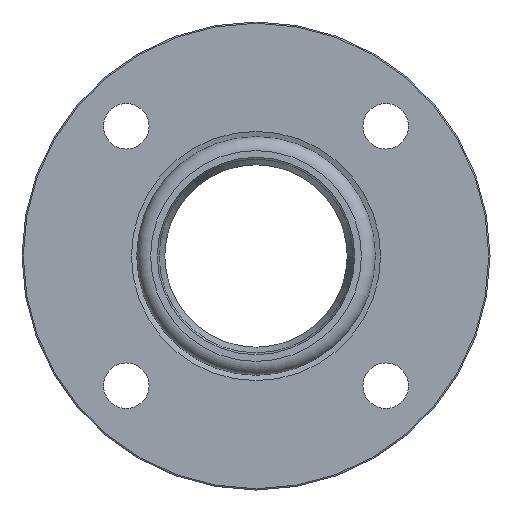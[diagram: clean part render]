
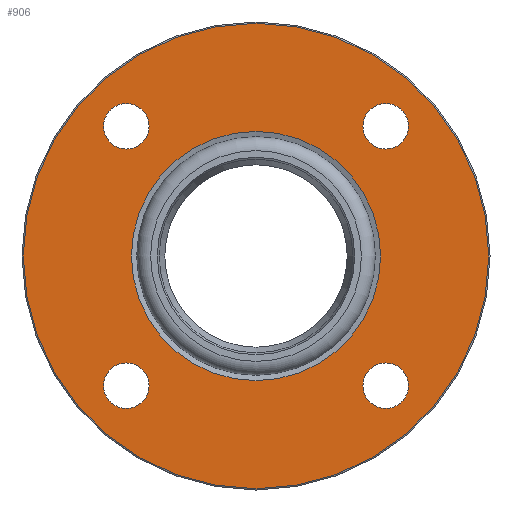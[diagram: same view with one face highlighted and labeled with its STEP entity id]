
A CAD part, left-side view. The second image highlights one B-rep face of the part: STEP entity #906.
In plain terms, the highlighted planar face has unit normal (-1, 0, 0) as drawn and (0, 0, 1) by its records, which use the part's own axes.
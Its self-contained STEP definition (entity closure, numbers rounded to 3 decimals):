
#655=CARTESIAN_POINT('',(0.0,-49.233,0.));
#656=VERTEX_POINT('',#655);
#657=CARTESIAN_POINT('',(0.0,0.0,0.0));
#658=DIRECTION('',(0.0,0.0,-1.0));
#659=DIRECTION('',(0.0,-1.0,0.0));
#660=AXIS2_PLACEMENT_3D('',#657,#658,#659);
#661=CIRCLE('',#660,49.233);
#662=EDGE_CURVE('',#656,#656,#661,.T.);
#836=CARTESIAN_POINT('',(92.0,0.,0.0));
#837=VERTEX_POINT('',#836);
#838=CARTESIAN_POINT('',(0.0,0.0,0.0));
#839=DIRECTION('',(0.0,0.0,-1.0));
#840=DIRECTION('',(-1.0,0.0,0.0));
#841=AXIS2_PLACEMENT_3D('',#838,#839,#840);
#842=CIRCLE('',#841,92.0);
#843=EDGE_CURVE('',#837,#837,#842,.T.);
#851=CARTESIAN_POINT('',(0.0,0.0,0.0));
#852=DIRECTION('',(0.0,0.0,-1.0));
#853=DIRECTION('',(-1.0,0.0,0.0));
#854=AXIS2_PLACEMENT_3D('',#851,#852,#853);
#855=PLANE('',#854);
#856=ORIENTED_EDGE('',*,*,#843,.F.);
#857=EDGE_LOOP('',(#856));
#858=FACE_OUTER_BOUND('',#857,.T.);
#859=ORIENTED_EDGE('',*,*,#662,.T.);
#860=EDGE_LOOP('',(#859));
#861=FACE_BOUND('',#860,.T.);
#862=CARTESIAN_POINT('',(-42.265,51.265,0.0));
#863=VERTEX_POINT('',#862);
#864=CARTESIAN_POINT('',(-51.265,51.265,0.0));
#865=DIRECTION('',(0.0,0.0,-1.0));
#866=DIRECTION('',(-1.0,0.0,0.0));
#867=AXIS2_PLACEMENT_3D('',#864,#865,#866);
#868=CIRCLE('',#867,9.0);
#869=EDGE_CURVE('',#863,#863,#868,.T.);
#870=ORIENTED_EDGE('',*,*,#869,.T.);
#871=EDGE_LOOP('',(#870));
#872=FACE_BOUND('',#871,.T.);
#873=CARTESIAN_POINT('',(60.265,51.265,0.0));
#874=VERTEX_POINT('',#873);
#875=CARTESIAN_POINT('',(51.265,51.265,0.0));
#876=DIRECTION('',(0.0,0.0,-1.0));
#877=DIRECTION('',(-1.0,0.0,0.0));
#878=AXIS2_PLACEMENT_3D('',#875,#876,#877);
#879=CIRCLE('',#878,9.0);
#880=EDGE_CURVE('',#874,#874,#879,.T.);
#881=ORIENTED_EDGE('',*,*,#880,.T.);
#882=EDGE_LOOP('',(#881));
#883=FACE_BOUND('',#882,.T.);
#884=CARTESIAN_POINT('',(60.265,-51.265,0.0));
#885=VERTEX_POINT('',#884);
#886=CARTESIAN_POINT('',(51.265,-51.265,0.0));
#887=DIRECTION('',(0.0,0.0,-1.0));
#888=DIRECTION('',(-1.0,0.0,0.0));
#889=AXIS2_PLACEMENT_3D('',#886,#887,#888);
#890=CIRCLE('',#889,9.0);
#891=EDGE_CURVE('',#885,#885,#890,.T.);
#892=ORIENTED_EDGE('',*,*,#891,.T.);
#893=EDGE_LOOP('',(#892));
#894=FACE_BOUND('',#893,.T.);
#895=CARTESIAN_POINT('',(-42.265,-51.265,0.0));
#896=VERTEX_POINT('',#895);
#897=CARTESIAN_POINT('',(-51.265,-51.265,0.0));
#898=DIRECTION('',(0.0,0.0,-1.0));
#899=DIRECTION('',(-1.0,0.0,0.0));
#900=AXIS2_PLACEMENT_3D('',#897,#898,#899);
#901=CIRCLE('',#900,9.0);
#902=EDGE_CURVE('',#896,#896,#901,.T.);
#903=ORIENTED_EDGE('',*,*,#902,.T.);
#904=EDGE_LOOP('',(#903));
#905=FACE_BOUND('',#904,.T.);
#906=ADVANCED_FACE('',(#858,#861,#872,#883,#894,#905),#855,.F.);
